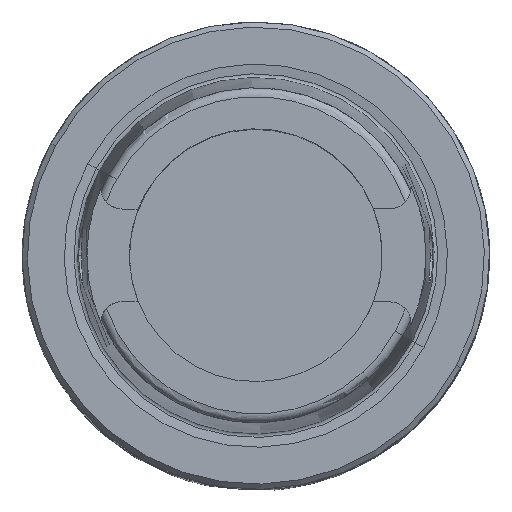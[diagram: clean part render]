
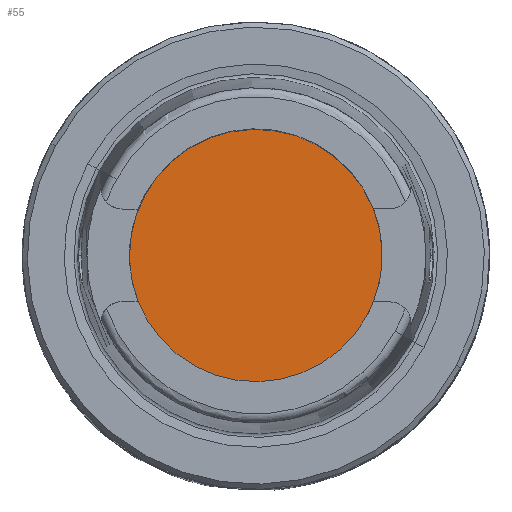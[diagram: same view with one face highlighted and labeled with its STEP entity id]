
A CAD part, top view. The second image highlights one B-rep face of the part: STEP entity #55.
In plain terms, the highlighted planar face has unit normal (0, 0, 1).
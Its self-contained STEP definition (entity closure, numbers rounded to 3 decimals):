
#35=AXIS2_PLACEMENT_3D('Plane Axis2P3D',#32,#33,#34) ;
#39=AXIS2_PLACEMENT_3D('Circle Axis2P3D',#37,#38,$) ;
#48=AXIS2_PLACEMENT_3D('Circle Axis2P3D',#46,#47,$) ;
#32=CARTESIAN_POINT('Axis2P3D Location',(-15.725,0.,-10.)) ;
#37=CARTESIAN_POINT('Axis2P3D Location',(0.,0.,-10.)) ;
#41=CARTESIAN_POINT('Vertex',(-14.941,8.162,-10.)) ;
#43=CARTESIAN_POINT('Vertex',(14.941,-8.162,-10.)) ;
#46=CARTESIAN_POINT('Axis2P3D Location',(0.,0.,-10.)) ;
#33=DIRECTION('Axis2P3D Direction',(0.,0.,-1.)) ;
#34=DIRECTION('Axis2P3D XDirection',(-1.,0.,0.)) ;
#38=DIRECTION('Axis2P3D Direction',(0.,0.,-1.)) ;
#47=DIRECTION('Axis2P3D Direction',(0.,0.,-1.)) ;
#52=ORIENTED_EDGE('',*,*,#45,.T.) ;
#53=ORIENTED_EDGE('',*,*,#50,.T.) ;
#55=ADVANCED_FACE('NOCUT',(#54),#36,.F.) ;
#40=CIRCLE('generated circle',#39,17.025) ;
#49=CIRCLE('generated circle',#48,17.025) ;
#45=EDGE_CURVE('',#42,#44,#40,.F.) ;
#50=EDGE_CURVE('',#44,#42,#49,.F.) ;
#51=EDGE_LOOP('',(#52,#53)) ;
#54=FACE_OUTER_BOUND('',#51,.T.) ;
#36=PLANE('',#35) ;
#42=VERTEX_POINT('',#41) ;
#44=VERTEX_POINT('',#43) ;
